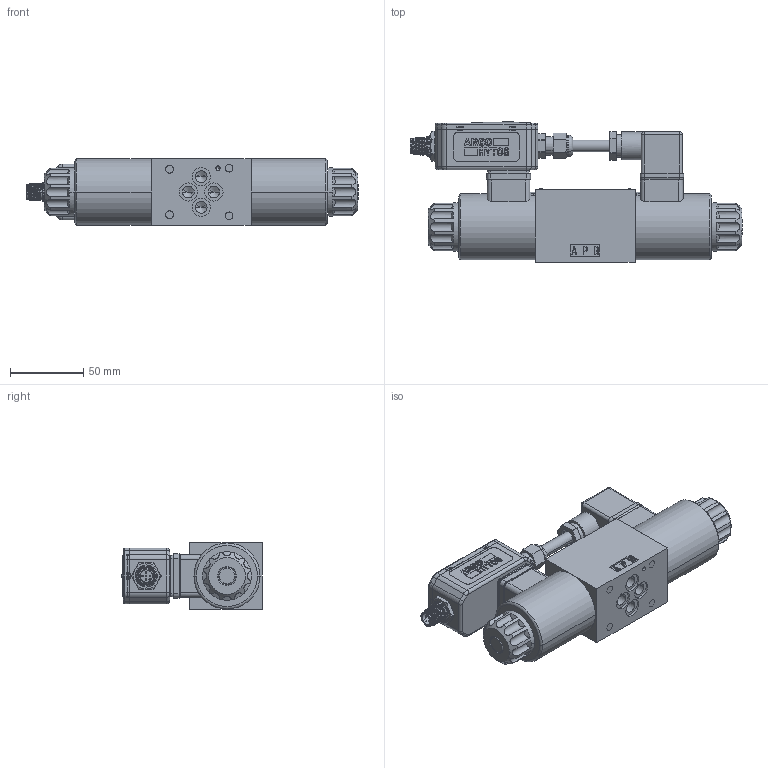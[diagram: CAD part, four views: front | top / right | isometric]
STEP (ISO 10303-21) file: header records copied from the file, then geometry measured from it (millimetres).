
FILE_DESCRIPTION((''),'2;1');
FILE_NAME('PRM2-063_EL7_ASM','2021-07-07T',('l.soukupova'),(''),'PRO/ENGINEER BY PARAMETRIC TECHNOLOGY CORPORATION, 2015440','PRO/ENGINEER BY PARAMETRIC TECHNOLOGY CORPORATION, 2015440','');
FILE_SCHEMA(('AUTOMOTIVE_DESIGN { 1 0 10303 214 1 1 1 1 }'));
Products named in the file (9): RPE3_063Z11_RD_AF0; C22B_E1; PRM2_063Z17_193414_AF0_ASM; MANIFOLD_SOLID_BREP_102502; MANIFOLD_SOLID_BREP_153750; MANIFOLD_SOLID_BREP_153967; MANIFOLD_SOLID_BREP_154981; EL7_DVOUMAGNET_PRM-06_1_ASM; PRM2-063_EL7_ASM
Assembly tree (9 placements, depth 3):
  PRM2-063_EL7_ASM
    PRM2_063Z17_193414_AF0_ASM
      RPE3_063Z11_RD_AF0
      C22B_E1  x2
    EL7_DVOUMAGNET_PRM-06_1_ASM
      MANIFOLD_SOLID_BREP_102502
      MANIFOLD_SOLID_BREP_153750
      MANIFOLD_SOLID_BREP_153967
      MANIFOLD_SOLID_BREP_154981
Bounding box: 226.15 x 95.65 x 45 mm (x, y, z)
Volume: 358845.4 mm3; surface area: 110067.6 mm2
Topology: 6 solids, 9 shells, 2766 faces, 7437 edges, 4859 vertices
Faces by surface type: plane 1133, cylinder 762, bspline 299, extrusion 233, torus 142, cone 136, sphere 61
Entity records: 178794 total; most frequent: CARTESIAN_POINT 61517, ORIENTED_EDGE 14218, DIRECTION 12037, PRESENTATION_STYLE_ASSIGNMENT 9963, STYLED_ITEM 9816, CURVE_STYLE 7464, EDGE_CURVE 7112, FILL_AREA_STYLE_COLOUR 4988
